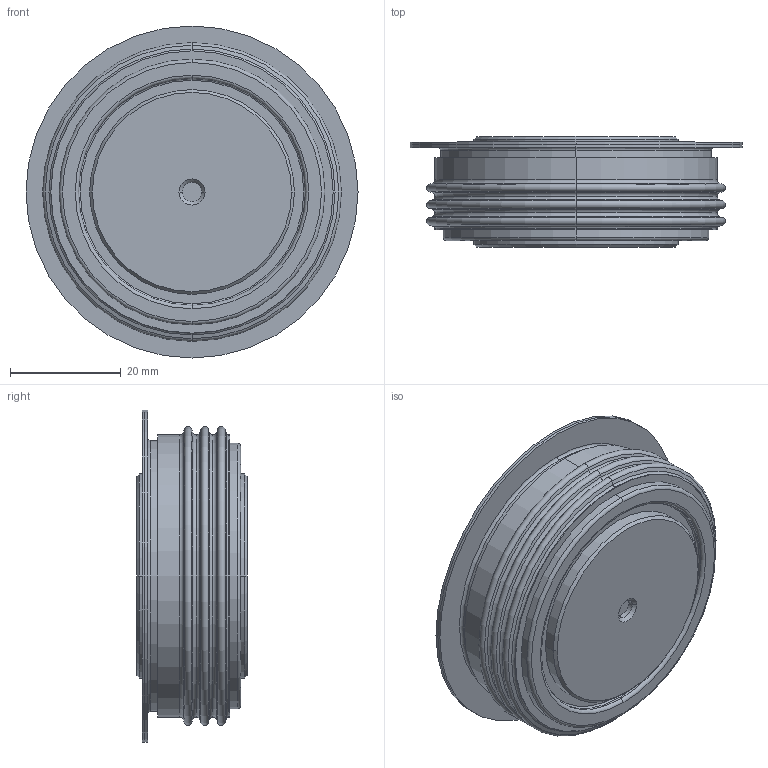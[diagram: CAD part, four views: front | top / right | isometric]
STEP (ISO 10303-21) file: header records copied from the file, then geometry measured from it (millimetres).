
FILE_DESCRIPTION (( 'STEP AP214' ), '1' );
FILE_NAME ('PD42.STEP', '2021-03-01T07:41:42', ( '' ), ( '' ), 'SwSTEP 2.0', 'SolidWorks 2018', '' );
FILE_SCHEMA (( 'AUTOMOTIVE_DESIGN' ));
Length unit declared in the file: millimetre
Products named in the file (1): PD42
Bounding box: 60 x 20 x 60 mm (x, y, z)
Volume: 28945.7 mm3; surface area: 19491 mm2
Topology: 5 solids, 5 shells, 122 faces, 242 edges, 140 vertices
Faces by surface type: torus 42, cylinder 40, plane 20, cone 20
Entity records: 4604 total; most frequent: DIRECTION 670, CARTESIAN_POINT 505, ORIENTED_EDGE 484, AXIS2_PLACEMENT_3D 305, EDGE_CURVE 242, CIRCLE 182, VERTEX_POINT 140, EDGE_LOOP 140
